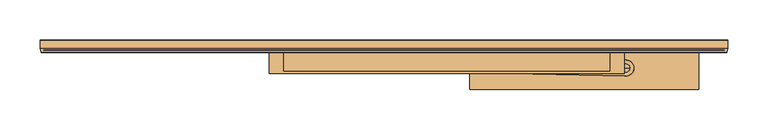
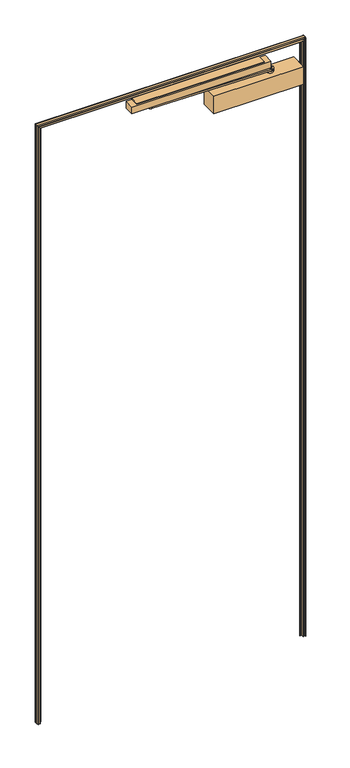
"""IFC4 building model written with IfcOpenShell, lengths in millimetres: door geometry."""

from ifc_helpers import new_model, si_unit, point, frame, frame_2d, origin, place, context, project, spatial, polyline, circle_curve, ellipse_curve, trimmed, segment, composite_curve, outline, extrude, source, transform, mapped, element, save
from ifc_brep_helpers import plane_surface, cylinder_surface, revolved_surface, advanced_brep


def door_5233f0bc(model_context):
    return source(origin(), model_context, "Body", "SolidModel", [
        extrude(outline(polyline([(63.0, 1998.0), (35.0, 1998.0), (35.0, 2000.0), (65.0, 2000.0), (65.0, 1975.0), (63.0, 1975.0), (63.0, 1998.0)])), frame((-125.0, 0.0, 0.0), z_axis=(1.0, 0.0, 0.0), x_axis=(0.0, 1.0, 0.0)), (0.0, 0.0, 1.0), 406.0),
        extrude(outline(composite_curve([segment(trimmed(circle_curve(frame_2d((-75.0, 47.0)), 10.0), [point((-75.2260061, 37.0025543))], [point((-74.7739939, 56.9974457))], False, "CARTESIAN"), True, "CONTINUOUS"), segment(polyline([(-74.7739939, 56.9974457), (301.2260061, 48.4974457)]), True, "CONTINUOUS"), segment(trimmed(circle_curve(frame_2d((301.0, 38.5)), 10.0), [point((301.2260061, 48.4974457))], [point((300.7739939, 28.5025543))], False, "CARTESIAN"), True, "CONTINUOUS"), segment(polyline([(300.7739939, 28.5025543), (-75.2260061, 37.0025543)]), True, "CONTINUOUS")], self_intersect=False)), frame((0.0, 0.0, 1965.5), z_axis=(0.0, 0.0, 1.0), x_axis=(1.0, 0.0, 0.0)), (0.0, 0.0, 1.0), 5.0),
        advanced_brep(
        [(-85.0, 47.0, 1974.5), (-75.0, 47.0, 1974.5), (-65.0, 47.0, 1974.5), (-85.0, 47.0, 1970.5), (-65.0, 47.0, 1970.5), (-75.0, 47.0, 1970.5)],
        [
            (0, 1),
            (1, 2),
            (2, 0, circle_curve(frame((-75.0, 47.0, 1974.5), z_axis=(0.0, 0.0, 1.0), x_axis=(1.0, 0.0, 0.0)), 10.0)),
            (0, 2, circle_curve(frame((-75.0, 47.0, 1974.5), z_axis=(0.0, 0.0, 1.0), x_axis=(1.0, 0.0, 0.0)), 10.0)),
            (3, 0),
            (2, 4),
            (4, 3, circle_curve(frame((-75.0, 47.0, 1970.5), z_axis=(0.0, 0.0, 1.0), x_axis=(1.0, 0.0, 0.0)), 10.0)),
            (3, 4, circle_curve(frame((-75.0, 47.0, 1970.5), z_axis=(0.0, 0.0, 1.0), x_axis=(1.0, 0.0, 0.0)), 10.0)),
            (5, 3),
            (4, 5),
        ],
        [
            plane_surface(frame((-75.0, 47.0, 1974.5), z_axis=(0.0, 0.0, 1.0), x_axis=(1.0, 0.0, 0.0))),
            cylinder_surface(frame((-75.0, 47.0, 1992.5), z_axis=(0.0, 0.0, -1.0), x_axis=(1.0, 0.0, 0.0)), 10.0),
            plane_surface(frame((-75.0, 47.0, 1970.5), z_axis=(0.0, 0.0, -1.0), x_axis=(1.0, 0.0, 0.0))),
        ],
        [
            (0, [[1, 2, 3]]),
            (0, [[-2, -1, 4]]),
            (1, [[5, -3, 6, 7]]),
            (1, [[-6, -4, -5, 8]]),
            (2, [[9, -7, 10]]),
            (2, [[-10, -8, -9]]),
        ],
    ),
        advanced_brep(
        [(-80.0, 47.0, 1965.5), (-75.0, 47.0, 1965.5), (-70.0, 47.0, 1965.5), (-80.0, 47.0, 1963.5), (-70.0, 47.0, 1963.5), (-75.0, 47.0, 1963.5)],
        [
            (0, 1),
            (1, 2),
            (2, 0, circle_curve(frame((-75.0, 47.0, 1965.5), z_axis=(0.0, 0.0, 1.0), x_axis=(1.0, 0.0, 0.0)), 5.0)),
            (0, 2, circle_curve(frame((-75.0, 47.0, 1965.5), z_axis=(0.0, 0.0, 1.0), x_axis=(1.0, 0.0, 0.0)), 5.0)),
            (3, 0),
            (2, 4),
            (4, 3, circle_curve(frame((-75.0, 47.0, 1963.5), z_axis=(0.0, 0.0, 1.0), x_axis=(1.0, 0.0, 0.0)), 5.0)),
            (3, 4, circle_curve(frame((-75.0, 47.0, 1963.5), z_axis=(0.0, 0.0, 1.0), x_axis=(1.0, 0.0, 0.0)), 5.0)),
            (5, 3),
            (4, 5),
        ],
        [
            plane_surface(frame((-75.0, 47.0, 1965.5), z_axis=(0.0, 0.0, 1.0), x_axis=(1.0, 0.0, 0.0))),
            cylinder_surface(frame((-75.0, 47.0, 1992.5), z_axis=(0.0, 0.0, -1.0), x_axis=(1.0, 0.0, 0.0)), 5.0),
            plane_surface(frame((-75.0, 47.0, 1963.5), z_axis=(0.0, 0.0, -1.0), x_axis=(1.0, 0.0, 0.0))),
        ],
        [
            (0, [[1, 2, 3]]),
            (0, [[-2, -1, 4]]),
            (1, [[5, -3, 6, 7]]),
            (1, [[-6, -4, -5, 8]]),
            (2, [[9, -7, 10]]),
            (2, [[-10, -8, -9]]),
        ],
    ),
        advanced_brep(
        [(301.0, 38.5, 1970.5), (296.0, 38.5, 1970.5), (306.0, 38.5, 1970.5), (296.0, 38.5, 1972.5), (301.0, 38.5, 1972.5), (306.0, 38.5, 1972.5)],
        [
            (0, 1),
            (1, 2, circle_curve(frame((301.0, 38.5, 1970.5), z_axis=(0.0, 0.0, -1.0), x_axis=(1.0, 0.0, 0.0)), 5.0)),
            (2, 0),
            (2, 1, circle_curve(frame((301.0, 38.5, 1970.5), z_axis=(0.0, 0.0, -1.0), x_axis=(1.0, 0.0, 0.0)), 5.0)),
            (3, 4),
            (4, 5),
            (5, 3, circle_curve(frame((301.0, 38.5, 1972.5), z_axis=(0.0, 0.0, 1.0), x_axis=(1.0, 0.0, 0.0)), 5.0)),
            (3, 5, circle_curve(frame((301.0, 38.5, 1972.5), z_axis=(0.0, 0.0, 1.0), x_axis=(1.0, 0.0, 0.0)), 5.0)),
            (1, 3),
            (5, 2),
        ],
        [
            plane_surface(frame((301.0, 38.5, 1970.5), z_axis=(0.0, 0.0, -1.0), x_axis=(1.0, 0.0, 0.0))),
            plane_surface(frame((301.0, 38.5, 1972.5), z_axis=(0.0, 0.0, 1.0), x_axis=(1.0, 0.0, 0.0))),
            cylinder_surface(frame((301.0, 38.5, 1986.3284376), z_axis=(0.0, 0.0, -1.0), x_axis=(1.0, 0.0, 0.0)), 5.0),
        ],
        [
            (0, [[1, 2, 3]]),
            (0, [[-3, 4, -1]]),
            (1, [[5, 6, 7]]),
            (1, [[-6, -5, 8]]),
            (2, [[9, -7, 10, -2]]),
            (2, [[-10, -8, -9, -4]]),
        ],
    ),
        advanced_brep(
        [(291.0, 38.5, 1958.5), (291.0, 38.5, 1965.5), (311.0, 38.5, 1965.5), (311.0, 38.5, 1958.5), (301.0, 38.5, 1958.5), (301.0, 38.5, 1965.5)],
        [
            (0, 1),
            (1, 2, circle_curve(frame((301.0, 38.5, 1965.5), z_axis=(0.0, 0.0, -1.0), x_axis=(1.0, 0.0, 0.0)), 10.0)),
            (2, 3),
            (3, 0, circle_curve(frame((301.0, 38.5, 1958.5), z_axis=(0.0, 0.0, 1.0), x_axis=(1.0, 0.0, 0.0)), 10.0)),
            (2, 1, circle_curve(frame((301.0, 38.5, 1965.5), z_axis=(0.0, 0.0, -1.0), x_axis=(1.0, 0.0, 0.0)), 10.0)),
            (0, 3, circle_curve(frame((301.0, 38.5, 1958.5), z_axis=(0.0, 0.0, 1.0), x_axis=(1.0, 0.0, 0.0)), 10.0)),
            (4, 0),
            (3, 4),
            (1, 5),
            (5, 2),
        ],
        [
            cylinder_surface(frame((301.0, 38.5, 1986.3284376), z_axis=(0.0, 0.0, -1.0), x_axis=(1.0, 0.0, 0.0)), 10.0),
            plane_surface(frame((301.0, 38.5, 1958.5), z_axis=(0.0, 0.0, -1.0), x_axis=(1.0, 0.0, 0.0))),
            plane_surface(frame((301.0, 38.5, 1965.5), z_axis=(0.0, 0.0, 1.0), x_axis=(1.0, 0.0, 0.0))),
        ],
        [
            (0, [[1, 2, 3, 4]]),
            (0, [[-3, 5, -1, 6]]),
            (1, [[7, -4, 8]]),
            (1, [[-8, -6, -7]]),
            (2, [[9, 10, -2]]),
            (2, [[-10, -9, -5]]),
        ],
    ),
        extrude(outline(polyline([(107.0, 12.0), (107.0, 65.0), (392.0, 65.0), (392.0, 12.0), (107.0, 12.0)])), frame((0.0, 0.0, 1898.5), z_axis=(0.0, 0.0, 1.0), x_axis=(1.0, 0.0, 0.0)), (0.0, 0.0, 1.0), 60.0),
        extrude(outline(polyline([(-143.0, 31.5), (-143.0, 62.5), (299.0, 62.5), (299.0, 31.5), (-143.0, 31.5)])), frame((0.0, 0.0, 1974.5), z_axis=(0.0, 0.0, 1.0), x_axis=(1.0, 0.0, 0.0)), (0.0, 0.0, 1.0), 23.0),
        advanced_brep(
        [(-417.5333333, 68.1996732, 0.0), (-418.4, 65.990098, 0.0), (-418.4, 59.80189, 0.0), (-419.0235102, 59.4701624, 0.0), (-423.7571616, 60.7993824, 0.0), (-425.9513805, 58.3111942, 0.0), (-426.6913103, 58.1883555, 0.0), (-428.0, 63.3343682, 0.0), (-428.0, 72.5479523, 0.0), (-426.9858543, 73.5478522, 0.0), (-421.2510105, 72.9191862, 0.0), (-414.8397079, 70.8273335, 0.0), (-413.3594274, 67.4757259, 0.0), (-413.8666667, 68.1996732, 0.0), (-417.5333333, 68.1996732, 2004.5333333), (-418.4, 65.990098, 2005.4), (-418.4, 59.80189, 2005.4), (-419.0235102, 59.4701624, 2006.0235102), (-423.7571616, 60.7993824, 2010.7571616), (-425.9513805, 58.3111942, 2012.9513805), (-426.6913103, 58.1883555, 2013.6913103), (-428.0, 63.3343682, 2015.0), (-428.0, 72.5479523, 2015.0), (-426.9858543, 73.5478522, 2013.9858543), (-421.2510105, 72.9191862, 2008.2510105), (-414.8397079, 70.8273335, 2001.8397079), (-413.3594274, 67.4757259, 2000.3594274), (-413.8666667, 68.1996732, 2000.8666667), (417.5333333, 68.1996732, 0.0), (413.8666667, 68.1996732, 0.0), (413.3594274, 67.4757259, 0.0), (414.8397079, 70.8273335, 0.0), (421.2510105, 72.9191862, 0.0), (426.9858543, 73.5478522, 0.0), (428.0, 72.5479523, 0.0), (428.0, 63.3343682, 0.0), (426.6913103, 58.1883555, 0.0), (425.9513805, 58.3111942, 0.0), (423.7571616, 60.7993824, 0.0), (419.0235102, 59.4701624, 0.0), (418.4, 59.80189, 0.0), (418.4, 65.990098, 0.0), (417.5333333, 68.1996732, 2004.5333333), (413.8666667, 68.1996732, 2000.8666667), (413.3594274, 67.4757259, 2000.3594274), (414.8397079, 70.8273335, 2001.8397079), (421.2510105, 72.9191862, 2008.2510105), (426.9858543, 73.5478522, 2013.9858543), (428.0, 72.5479523, 2015.0), (428.0, 63.3343682, 2015.0), (426.6913103, 58.1883555, 2013.6913103), (425.9513805, 58.3111942, 2012.9513805), (423.7571616, 60.7993824, 2010.7571616), (419.0235102, 59.4701624, 2006.0235102), (418.4, 59.80189, 2005.4), (418.4, 65.990098, 2005.4)],
        [
            (0, 1, circle_curve(frame((-415.15, 65.990098, 0.0), z_axis=(0.0, 0.0, 1.0), x_axis=(-1.0, 0.0, 0.0)), 3.25)),
            (1, 2),
            (2, 3, circle_curve(frame((-418.8, 59.80189, 0.0), z_axis=(0.0, 0.0, -1.0), x_axis=(-1.0, 0.0, 0.0)), 0.4)),
            (3, 4, circle_curve(frame((-423.4015438, 52.9724089, 0.0), z_axis=(0.0, 0.0, 1.0), x_axis=(-1.0, 0.0, 0.0)), 7.8350481)),
            (4, 5, circle_curve(frame((-423.6524844, 58.4954879, 0.0), z_axis=(0.0, 0.0, 1.0), x_axis=(-1.0, 0.0, 0.0)), 2.3062713)),
            (5, 6, circle_curve(frame((-426.3265489, 58.2811184, 0.0), z_axis=(0.0, 0.0, -1.0), x_axis=(-1.0, 0.0, 0.0)), 0.376372)),
            (6, 7),
            (7, 8),
            (8, 9, circle_curve(frame((-427.0, 72.5479523, 0.0), z_axis=(0.0, 0.0, -1.0), x_axis=(-1.0, 0.0, 0.0)), 1.0)),
            (9, 10, circle_curve(frame((-427.4158432, 43.1537382, 0.0), z_axis=(0.0, 0.0, -1.0), x_axis=(-1.0, 0.0, 0.0)), 30.3971554)),
            (10, 11, circle_curve(frame((-427.4158432, 43.1537382, 0.0), z_axis=(0.0, 0.0, -1.0), x_axis=(-1.0, 0.0, 0.0)), 30.3971554)),
            (11, 12, circle_curve(frame((-415.9783656, 68.3217345, 0.0), z_axis=(0.0, 0.0, -1.0), x_axis=(-1.0, 0.0, 0.0)), 2.7521932)),
            (12, 13, circle_curve(frame((-416.25, 65.990098, 0.0), z_axis=(0.0, 0.0, 1.0), x_axis=(-1.0, 0.0, 0.0)), 3.25)),
            (13, 0, circle_curve(frame((-415.7, 66.5, 0.0), z_axis=(0.0, 0.0, 1.0), x_axis=(-1.0, 0.0, 0.0)), 2.5)),
            (0, 14),
            (14, 15, ellipse_curve(frame((-415.15, 65.990098, 2002.15), z_axis=(0.7071067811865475, 0.0, 0.7071067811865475), x_axis=(-0.7071067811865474, 0.0, 0.7071067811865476)), 4.5961941, 3.25)),
            (15, 1),
            (15, 16),
            (16, 2),
            (16, 17, ellipse_curve(frame((-418.8, 59.80189, 2005.8), z_axis=(-0.7071067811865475, 0.0, -0.7071067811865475), x_axis=(0.7071067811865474, 0.0, -0.7071067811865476)), 0.5656854, 0.4)),
            (17, 3),
            (17, 18, ellipse_curve(frame((-423.4015438, 52.9724089, 2010.4015438), z_axis=(0.7071067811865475, 0.0, 0.7071067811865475), x_axis=(-0.7071067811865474, 0.0, 0.7071067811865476)), 11.0804313, 7.8350481)),
            (18, 4),
            (18, 19, ellipse_curve(frame((-423.6524844, 58.4954879, 2010.6524844), z_axis=(0.7071067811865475, 0.0, 0.7071067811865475), x_axis=(-0.7071067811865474, 0.0, 0.7071067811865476)), 3.2615602, 2.3062713)),
            (19, 5),
            (19, 20, ellipse_curve(frame((-426.3265489, 58.2811184, 2013.3265489), z_axis=(-0.7071067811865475, 0.0, -0.7071067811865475), x_axis=(0.7071067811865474, 0.0, -0.7071067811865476)), 0.5322704, 0.376372)),
            (20, 6),
            (20, 21),
            (21, 7),
            (21, 22),
            (22, 8),
            (22, 23, ellipse_curve(frame((-427.0, 72.5479523, 2014.0), z_axis=(-0.7071067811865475, 0.0, -0.7071067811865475), x_axis=(0.7071067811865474, 0.0, -0.7071067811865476)), 1.4142136, 1.0)),
            (23, 9),
            (23, 24, ellipse_curve(frame((-427.4158432, 43.1537382, 2014.4158432), z_axis=(-0.7071067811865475, 0.0, -0.7071067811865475), x_axis=(0.7071067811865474, 0.0, -0.7071067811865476)), 42.9880694, 30.3971554)),
            (24, 10),
            (24, 25, ellipse_curve(frame((-427.4158432, 43.1537382, 2014.4158432), z_axis=(-0.7071067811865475, 0.0, -0.7071067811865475), x_axis=(0.7071067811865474, 0.0, -0.7071067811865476)), 42.9880694, 30.3971554)),
            (25, 11),
            (25, 26, ellipse_curve(frame((-415.9783656, 68.3217345, 2002.9783656), z_axis=(-0.7071067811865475, 0.0, -0.7071067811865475), x_axis=(0.7071067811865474, 0.0, -0.7071067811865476)), 3.892189, 2.7521932)),
            (26, 12),
            (26, 27, ellipse_curve(frame((-416.25, 65.990098, 2003.25), z_axis=(0.7071067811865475, 0.0, 0.7071067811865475), x_axis=(-0.7071067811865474, 0.0, 0.7071067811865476)), 4.5961941, 3.25)),
            (27, 13),
            (27, 14, ellipse_curve(frame((-415.7, 66.5, 2002.7), z_axis=(0.7071067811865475, 0.0, 0.7071067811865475), x_axis=(-0.7071067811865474, 0.0, 0.7071067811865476)), 3.5355339, 2.5)),
            (28, 29, circle_curve(frame((415.7, 66.5, 0.0), z_axis=(0.0, 0.0, 1.0), x_axis=(1.0, 0.0, 0.0)), 2.5)),
            (29, 30, circle_curve(frame((416.25, 65.990098, 0.0), z_axis=(0.0, 0.0, 1.0), x_axis=(1.0, 0.0, 0.0)), 3.25)),
            (30, 31, circle_curve(frame((415.9783656, 68.3217345, 0.0), z_axis=(0.0, 0.0, -1.0), x_axis=(1.0, 0.0, 0.0)), 2.7521932)),
            (31, 32, circle_curve(frame((427.4158432, 43.1537382, 0.0), z_axis=(0.0, 0.0, -1.0), x_axis=(1.0, 0.0, 0.0)), 30.3971554)),
            (32, 33, circle_curve(frame((427.4158432, 43.1537382, 0.0), z_axis=(0.0, 0.0, -1.0), x_axis=(1.0, 0.0, 0.0)), 30.3971554)),
            (33, 34, circle_curve(frame((427.0, 72.5479523, 0.0), z_axis=(0.0, 0.0, -1.0), x_axis=(1.0, 0.0, 0.0)), 1.0)),
            (34, 35),
            (35, 36),
            (36, 37, circle_curve(frame((426.3265489, 58.2811184, 0.0), z_axis=(0.0, 0.0, -1.0), x_axis=(1.0, 0.0, 0.0)), 0.376372)),
            (37, 38, circle_curve(frame((423.6524844, 58.4954879, 0.0), z_axis=(0.0, 0.0, 1.0), x_axis=(1.0, 0.0, 0.0)), 2.3062713)),
            (38, 39, circle_curve(frame((423.4015438, 52.9724089, 0.0), z_axis=(0.0, 0.0, 1.0), x_axis=(1.0, 0.0, 0.0)), 7.8350481)),
            (39, 40, circle_curve(frame((418.8, 59.80189, 0.0), z_axis=(0.0, 0.0, -1.0), x_axis=(1.0, 0.0, 0.0)), 0.4)),
            (40, 41),
            (41, 28, circle_curve(frame((415.15, 65.990098, 0.0), z_axis=(0.0, 0.0, 1.0), x_axis=(1.0, 0.0, 0.0)), 3.25)),
            (42, 43, ellipse_curve(frame((415.7, 66.5, 2002.7), z_axis=(-0.7071067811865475, 0.0, 0.7071067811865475), x_axis=(-0.7071067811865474, 0.0, -0.7071067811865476)), 3.5355339, 2.5)),
            (43, 29),
            (28, 42),
            (43, 44, ellipse_curve(frame((416.25, 65.990098, 2003.25), z_axis=(-0.7071067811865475, 0.0, 0.7071067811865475), x_axis=(-0.7071067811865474, 0.0, -0.7071067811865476)), 4.5961941, 3.25)),
            (44, 30),
            (44, 45, ellipse_curve(frame((415.9783656, 68.3217345, 2002.9783656), z_axis=(0.7071067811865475, 0.0, -0.7071067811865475), x_axis=(0.7071067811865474, 0.0, 0.7071067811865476)), 3.892189, 2.7521932)),
            (45, 31),
            (45, 46, ellipse_curve(frame((427.4158432, 43.1537382, 2014.4158432), z_axis=(0.7071067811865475, 0.0, -0.7071067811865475), x_axis=(0.7071067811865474, 0.0, 0.7071067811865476)), 42.9880694, 30.3971554)),
            (46, 32),
            (46, 47, ellipse_curve(frame((427.4158432, 43.1537382, 2014.4158432), z_axis=(0.7071067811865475, 0.0, -0.7071067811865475), x_axis=(0.7071067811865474, 0.0, 0.7071067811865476)), 42.9880694, 30.3971554)),
            (47, 33),
            (47, 48, ellipse_curve(frame((427.0, 72.5479523, 2014.0), z_axis=(0.7071067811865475, 0.0, -0.7071067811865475), x_axis=(0.7071067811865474, 0.0, 0.7071067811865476)), 1.4142136, 1.0)),
            (48, 34),
            (48, 49),
            (49, 35),
            (49, 50),
            (50, 36),
            (50, 51, ellipse_curve(frame((426.3265489, 58.2811184, 2013.3265489), z_axis=(0.7071067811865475, 0.0, -0.7071067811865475), x_axis=(0.7071067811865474, 0.0, 0.7071067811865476)), 0.5322704, 0.376372)),
            (51, 37),
            (51, 52, ellipse_curve(frame((423.6524844, 58.4954879, 2010.6524844), z_axis=(-0.7071067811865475, 0.0, 0.7071067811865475), x_axis=(-0.7071067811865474, 0.0, -0.7071067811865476)), 3.2615602, 2.3062713)),
            (52, 38),
            (52, 53, ellipse_curve(frame((423.4015438, 52.9724089, 2010.4015438), z_axis=(-0.7071067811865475, 0.0, 0.7071067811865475), x_axis=(-0.7071067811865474, 0.0, -0.7071067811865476)), 11.0804313, 7.8350481)),
            (53, 39),
            (53, 54, ellipse_curve(frame((418.8, 59.80189, 2005.8), z_axis=(0.7071067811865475, 0.0, -0.7071067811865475), x_axis=(0.7071067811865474, 0.0, 0.7071067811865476)), 0.5656854, 0.4)),
            (54, 40),
            (54, 55),
            (55, 41),
            (55, 42, ellipse_curve(frame((415.15, 65.990098, 2002.15), z_axis=(-0.7071067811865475, 0.0, 0.7071067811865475), x_axis=(-0.7071067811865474, 0.0, -0.7071067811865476)), 4.5961941, 3.25)),
            (26, 44),
            (43, 27),
            (42, 14),
            (55, 15),
            (54, 16),
            (21, 49),
            (48, 22),
            (53, 17),
            (52, 18),
            (51, 19),
            (50, 20),
            (47, 23),
            (46, 24),
            (45, 25),
        ],
        [
            plane_surface(frame((-474.0, 125.0, 0.0), z_axis=(0.0, 0.0, -1.0), x_axis=(0.0, 1.0, 0.0))),
            revolved_surface(polyline([(-418.4, 65.990098, 2005.4000000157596), (-418.4, 65.990098, 0.0)]), (-415.15, 65.990098, 0.0), (0.0, 0.0, 1.0)),
            plane_surface(frame((-418.4, 65.990098, 0.0), z_axis=(1.0, 0.0, 0.0), x_axis=(0.0, 0.0, 1.0))),
            cylinder_surface(frame((-418.8, 59.80189, 0.0), z_axis=(0.0, 0.0, -1.0), x_axis=(-1.0, 0.0, 0.0)), 0.4),
            revolved_surface(polyline([(-431.2365919, 52.9724089, 2018.2365919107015), (-431.2365919, 52.9724089, 0.0)]), (-423.4015438, 52.9724089, 0.0), (0.0, 0.0, 1.0)),
            revolved_surface(polyline([(-425.9587557, 58.4954879, 2012.958755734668), (-425.9587557, 58.4954879, 0.0)]), (-423.6524844, 58.4954879, 0.0), (0.0, 0.0, 1.0)),
            cylinder_surface(frame((-426.3265489, 58.2811184, 0.0), z_axis=(0.0, 0.0, -1.0), x_axis=(-1.0, 0.0, 0.0)), 0.376372),
            plane_surface(frame((-426.6913103, 58.1883555, 0.0), z_axis=(-0.9691513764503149, -0.2464662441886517, 0.0), x_axis=(0.0, 0.0, 1.0))),
            plane_surface(frame((-428.0, 63.3343682, 0.0), z_axis=(-1.0, 0.0, 0.0), x_axis=(0.0, 0.0, 1.0))),
            cylinder_surface(frame((-427.0, 72.5479523, 0.0), z_axis=(0.0, 0.0, -1.0), x_axis=(-1.0, 0.0, 0.0)), 1.0),
            cylinder_surface(frame((-427.4158432, 43.1537382, 0.0), z_axis=(0.0, 0.0, -1.0), x_axis=(-1.0, 0.0, 0.0)), 30.3971554),
            cylinder_surface(frame((-415.9783656, 68.3217345, 0.0), z_axis=(0.0, 0.0, -1.0), x_axis=(-1.0, 0.0, 0.0)), 2.7521932),
            revolved_surface(polyline([(-419.5, 65.990098, 2006.5000000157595), (-419.5, 65.990098, 0.0)]), (-416.25, 65.990098, 0.0), (0.0, 0.0, 1.0)),
            revolved_surface(polyline([(-418.2, 66.5, 2005.199999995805), (-418.2, 66.5, 0.0)]), (-415.7, 66.5, 0.0), (0.0, 0.0, 1.0)),
            plane_surface(frame((474.0, 125.0, 0.0), z_axis=(0.0, 0.0, -1.0), x_axis=(0.0, 1.0, 0.0))),
            revolved_surface(polyline([(418.2, 66.5, 0.0), (418.2, 66.5, 2005.199999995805)]), (415.7, 66.5, 2061.0), (0.0, 0.0, -1.0)),
            revolved_surface(polyline([(419.5, 65.990098, 0.0), (419.5, 65.990098, 2006.5000000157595)]), (416.25, 65.990098, 2061.0), (0.0, 0.0, -1.0)),
            cylinder_surface(frame((415.9783656, 68.3217345, 2061.0), z_axis=(0.0, 0.0, 1.0), x_axis=(1.0, 0.0, 0.0)), 2.7521932),
            cylinder_surface(frame((427.4158432, 43.1537382, 2061.0), z_axis=(0.0, 0.0, 1.0), x_axis=(1.0, 0.0, 0.0)), 30.3971554),
            cylinder_surface(frame((427.0, 72.5479523, 2061.0), z_axis=(0.0, 0.0, 1.0), x_axis=(1.0, 0.0, 0.0)), 1.0),
            plane_surface(frame((428.0, 63.3343682, 2015.0), z_axis=(1.0, 0.0, 0.0), x_axis=(0.0, 0.0, -1.0))),
            plane_surface(frame((426.6913103, 58.1883555, 2013.6913103), z_axis=(0.9691513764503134, -0.2464662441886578, 0.0), x_axis=(0.0, 0.0, -1.0))),
            cylinder_surface(frame((426.3265489, 58.2811184, 2061.0), z_axis=(0.0, 0.0, 1.0), x_axis=(1.0, 0.0, 0.0)), 0.376372),
            revolved_surface(polyline([(425.9587557, 58.4954879, 0.0), (425.9587557, 58.4954879, 2012.958755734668)]), (423.6524844, 58.4954879, 2061.0), (0.0, 0.0, -1.0)),
            revolved_surface(polyline([(431.2365919, 52.9724089, 0.0), (431.2365919, 52.9724089, 2018.2365919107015)]), (423.4015438, 52.9724089, 2061.0), (0.0, 0.0, -1.0)),
            cylinder_surface(frame((418.8, 59.80189, 2061.0), z_axis=(0.0, 0.0, 1.0), x_axis=(1.0, 0.0, 0.0)), 0.4),
            plane_surface(frame((418.4, 65.990098, 2005.4), z_axis=(-1.0, 0.0, 0.0), x_axis=(0.0, 0.0, -1.0))),
            revolved_surface(polyline([(418.4, 65.990098, 0.0), (418.4, 65.990098, 2005.4000000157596)]), (415.15, 65.990098, 2061.0), (0.0, 0.0, -1.0)),
            revolved_surface(polyline([(419.5000000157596, 65.990098, 2006.5), (-419.5000000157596, 65.990098, 2006.5)]), (-474.0, 65.990098, 2003.25), (1.0, 0.0, 0.0)),
            revolved_surface(polyline([(418.199999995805, 66.5, 2005.2), (-418.1999999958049, 66.5, 2005.2)]), (-474.0, 66.5, 2002.7), (1.0, 0.0, 0.0)),
            revolved_surface(polyline([(418.4000000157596, 65.990098, 2005.4), (-418.4000000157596, 65.990098, 2005.4)]), (-474.0, 65.990098, 2002.15), (1.0, 0.0, 0.0)),
            plane_surface(frame((-418.4, 65.990098, 2005.4), z_axis=(0.0, 0.0, -1.0), x_axis=(1.0, 0.0, 0.0))),
            plane_surface(frame((-428.0, 63.3343682, 2015.0), z_axis=(0.0, 0.0, 1.0), x_axis=(1.0, 0.0, 0.0))),
            cylinder_surface(frame((-474.0, 59.80189, 2005.8), z_axis=(-1.0, 0.0, 0.0), x_axis=(0.0, 0.0, 1.0)), 0.4),
            revolved_surface(polyline([(431.2365919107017, 52.9724089, 2018.2365919), (-431.2365919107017, 52.9724089, 2018.2365919)]), (-474.0, 52.9724089, 2010.4015438), (1.0, 0.0, 0.0)),
            revolved_surface(polyline([(425.9587557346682, 58.4954879, 2012.9587557), (-425.95875573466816, 58.4954879, 2012.9587557)]), (-474.0, 58.4954879, 2010.6524844), (1.0, 0.0, 0.0)),
            cylinder_surface(frame((-474.0, 58.2811184, 2013.3265489), z_axis=(-1.0, 0.0, 0.0), x_axis=(0.0, 0.0, 1.0)), 0.376372),
            plane_surface(frame((-426.6913103, 58.1883555, 2013.6913103), z_axis=(0.0, -0.24646624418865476, 0.9691513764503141), x_axis=(1.0, 0.0, 0.0))),
            cylinder_surface(frame((-474.0, 72.5479523, 2014.0), z_axis=(-1.0, 0.0, 0.0), x_axis=(0.0, 0.0, 1.0)), 1.0),
            cylinder_surface(frame((-474.0, 43.1537382, 2014.4158432), z_axis=(-1.0, 0.0, 0.0), x_axis=(0.0, 0.0, 1.0)), 30.3971554),
            cylinder_surface(frame((-474.0, 68.3217345, 2002.9783656), z_axis=(-1.0, 0.0, 0.0), x_axis=(0.0, 0.0, 1.0)), 2.7521932),
        ],
        [
            (0, [[1, 2, 3, 4, 5, 6, 7, 8, 9, 10, 11, 12, 13, 14]]),
            (1, [[-1, 15, 16, 17]]),
            (2, [[-2, -17, 18, 19]]),
            (3, [[-3, -19, 20, 21]]),
            (4, [[-4, -21, 22, 23]]),
            (5, [[-5, -23, 24, 25]]),
            (6, [[-6, -25, 26, 27]]),
            (7, [[-7, -27, 28, 29]]),
            (8, [[-8, -29, 30, 31]]),
            (9, [[-9, -31, 32, 33]]),
            (10, [[-10, -33, 34, 35]]),
            (10, [[-11, -35, 36, 37]]),
            (11, [[-12, -37, 38, 39]]),
            (12, [[-13, -39, 40, 41]]),
            (13, [[-14, -41, 42, -15]]),
            (14, [[43, 44, 45, 46, 47, 48, 49, 50, 51, 52, 53, 54, 55, 56]]),
            (15, [[57, 58, -43, 59]]),
            (16, [[60, 61, -44, -58]]),
            (17, [[62, 63, -45, -61]]),
            (18, [[64, 65, -46, -63]]),
            (18, [[66, 67, -47, -65]]),
            (19, [[68, 69, -48, -67]]),
            (20, [[70, 71, -49, -69]]),
            (21, [[72, 73, -50, -71]]),
            (22, [[74, 75, -51, -73]]),
            (23, [[76, 77, -52, -75]]),
            (24, [[78, 79, -53, -77]]),
            (25, [[80, 81, -54, -79]]),
            (26, [[82, 83, -55, -81]]),
            (27, [[84, -59, -56, -83]]),
            (28, [[-40, 85, -60, 86]]),
            (29, [[-42, -86, -57, 87]]),
            (30, [[-16, -87, -84, 88]]),
            (31, [[-18, -88, -82, 89]]),
            (32, [[-30, 90, -70, 91]]),
            (33, [[-20, -89, -80, 92]]),
            (34, [[-22, -92, -78, 93]]),
            (35, [[-24, -93, -76, 94]]),
            (36, [[-26, -94, -74, 95]]),
            (37, [[-28, -95, -72, -90]]),
            (38, [[-32, -91, -68, 96]]),
            (39, [[-34, -96, -66, 97]]),
            (39, [[-36, -97, -64, 98]]),
            (40, [[-38, -98, -62, -85]]),
        ],
    ),
    ])


if __name__ == "__main__":
    model = new_model("IFC4")
    model_context = context("Model", 3, world=origin())
    ifc_project = project(units=[si_unit("LENGTHUNIT", "METRE", prefix="MILLI")], contexts=[model_context])
    site = spatial("IfcSite", under=ifc_project)
    building = spatial("IfcBuilding", under=site)
    placement = place(None, origin())
    door_shape = door_5233f0bc(model_context)
    element("IfcDoor", 1, at=placement, inside=building, context=model_context, shape_type="MappedRepresentation", body=[
        mapped(door_shape, transform((0.0, 0.0, 0.0), x_axis=(1.0, 0.0, 0.0), y_axis=(0.0, 1.0, 0.0), z_axis=(0.0, 0.0, 1.0))),
    ])
    save(model, "model.ifc")
